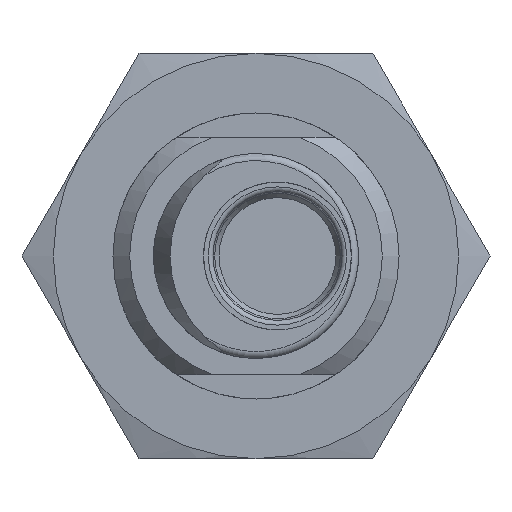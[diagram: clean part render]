
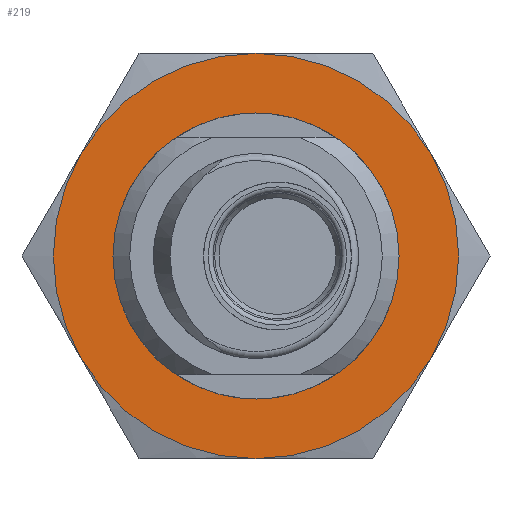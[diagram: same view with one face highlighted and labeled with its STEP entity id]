
A CAD part, left-side view. The second image highlights one B-rep face of the part: STEP entity #219.
In plain terms, the highlighted planar face has unit normal (-1, 0, 0).
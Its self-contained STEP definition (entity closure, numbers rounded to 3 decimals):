
#219 = ADVANCED_FACE( '', ( #360, #361 ), #362, .T. );
#360 = FACE_BOUND( '', #516, .T. );
#361 = FACE_OUTER_BOUND( '', #517, .T. );
#362 = PLANE( '', #518 );
#516 = EDGE_LOOP( '', ( #852 ) );
#517 = EDGE_LOOP( '', ( #853, #854, #855, #856, #857, #858 ) );
#518 = AXIS2_PLACEMENT_3D( '', #859, #860, #861 );
#852 = ORIENTED_EDGE( '', *, *, #1012, .T. );
#853 = ORIENTED_EDGE( '', *, *, #1013, .F. );
#854 = ORIENTED_EDGE( '', *, *, #1010, .F. );
#855 = ORIENTED_EDGE( '', *, *, #1014, .F. );
#856 = ORIENTED_EDGE( '', *, *, #1007, .F. );
#857 = ORIENTED_EDGE( '', *, *, #1011, .F. );
#858 = ORIENTED_EDGE( '', *, *, #1015, .F. );
#859 = CARTESIAN_POINT( '', ( 0., 8.5, 0. ) );
#860 = DIRECTION( '', ( -1., 0., 0. ) );
#861 = DIRECTION( '', ( 0., 0., 1. ) );
#1007 = EDGE_CURVE( '', #1124, #1157, #1171, .T. );
#1010 = EDGE_CURVE( '', #1151, #1163, #1175, .T. );
#1011 = EDGE_CURVE( '', #1172, #1124, #1176, .T. );
#1012 = EDGE_CURVE( '', #1177, #1177, #1178, .T. );
#1013 = EDGE_CURVE( '', #1163, #1139, #1179, .T. );
#1014 = EDGE_CURVE( '', #1157, #1151, #1180, .T. );
#1015 = EDGE_CURVE( '', #1139, #1172, #1181, .T. );
#1124 = VERTEX_POINT( '', #1375 );
#1139 = VERTEX_POINT( '', #1407 );
#1151 = VERTEX_POINT( '', #1435 );
#1157 = VERTEX_POINT( '', #1453 );
#1163 = VERTEX_POINT( '', #1471 );
#1171 = CIRCLE( '', #1493, 8.5 );
#1172 = VERTEX_POINT( '', #1494 );
#1175 = CIRCLE( '', #1505, 8.5 );
#1176 = CIRCLE( '', #1506, 8.5 );
#1177 = VERTEX_POINT( '', #1507 );
#1178 = CIRCLE( '', #1508, 6. );
#1179 = CIRCLE( '', #1509, 8.5 );
#1180 = CIRCLE( '', #1510, 8.5 );
#1181 = CIRCLE( '', #1511, 8.5 );
#1375 = CARTESIAN_POINT( '', ( 0., -7.361, 4.25 ) );
#1407 = CARTESIAN_POINT( '', ( 0., 7.361, 4.25 ) );
#1435 = CARTESIAN_POINT( '', ( 0., 0., -8.5 ) );
#1453 = CARTESIAN_POINT( '', ( 0., -7.361, -4.25 ) );
#1471 = CARTESIAN_POINT( '', ( 0., 7.361, -4.25 ) );
#1493 = AXIS2_PLACEMENT_3D( '', #1655, #1656, #1657 );
#1494 = CARTESIAN_POINT( '', ( 0., 0., 8.5 ) );
#1505 = AXIS2_PLACEMENT_3D( '', #1658, #1659, #1660 );
#1506 = AXIS2_PLACEMENT_3D( '', #1661, #1662, #1663 );
#1507 = CARTESIAN_POINT( '', ( 0., 0., -6. ) );
#1508 = AXIS2_PLACEMENT_3D( '', #1664, #1665, #1666 );
#1509 = AXIS2_PLACEMENT_3D( '', #1667, #1668, #1669 );
#1510 = AXIS2_PLACEMENT_3D( '', #1670, #1671, #1672 );
#1511 = AXIS2_PLACEMENT_3D( '', #1673, #1674, #1675 );
#1655 = CARTESIAN_POINT( '', ( 0., 0., 0. ) );
#1656 = DIRECTION( '', ( 1., 0., 0. ) );
#1657 = DIRECTION( '', ( 0., 0., -1. ) );
#1658 = CARTESIAN_POINT( '', ( 0., 0., 0. ) );
#1659 = DIRECTION( '', ( 1., 0., 0. ) );
#1660 = DIRECTION( '', ( 0., 0., -1. ) );
#1661 = CARTESIAN_POINT( '', ( 0., 0., 0. ) );
#1662 = DIRECTION( '', ( 1., 0., 0. ) );
#1663 = DIRECTION( '', ( 0., 0., -1. ) );
#1664 = CARTESIAN_POINT( '', ( 0., 0., 0. ) );
#1665 = DIRECTION( '', ( 1., 0., 0. ) );
#1666 = DIRECTION( '', ( 0., 0., -1. ) );
#1667 = CARTESIAN_POINT( '', ( 0., 0., 0. ) );
#1668 = DIRECTION( '', ( 1., 0., 0. ) );
#1669 = DIRECTION( '', ( 0., 0., -1. ) );
#1670 = CARTESIAN_POINT( '', ( 0., 0., 0. ) );
#1671 = DIRECTION( '', ( 1., 0., 0. ) );
#1672 = DIRECTION( '', ( 0., 0., -1. ) );
#1673 = CARTESIAN_POINT( '', ( 0., 0., 0. ) );
#1674 = DIRECTION( '', ( 1., 0., 0. ) );
#1675 = DIRECTION( '', ( 0., 0., -1. ) );
